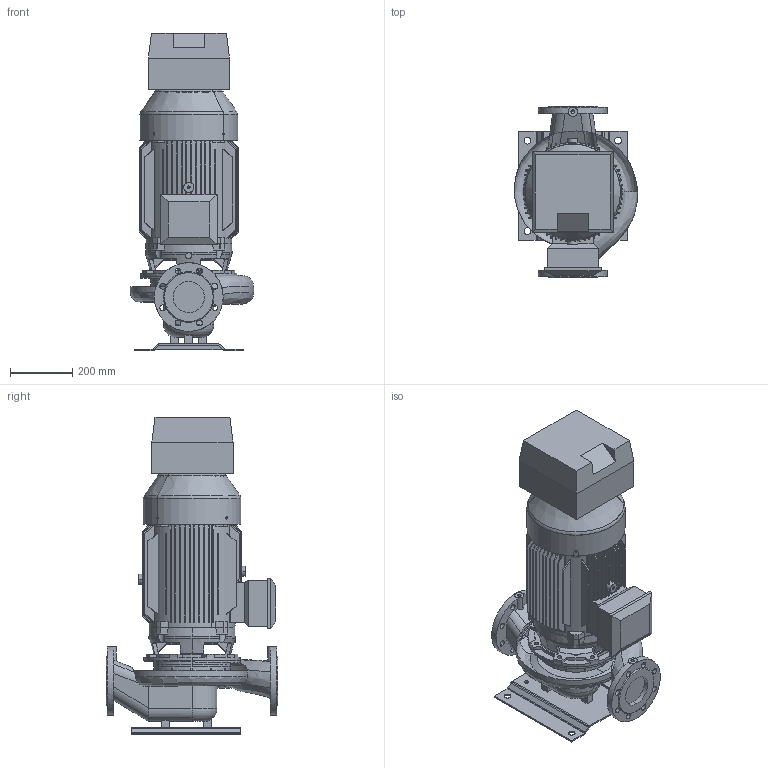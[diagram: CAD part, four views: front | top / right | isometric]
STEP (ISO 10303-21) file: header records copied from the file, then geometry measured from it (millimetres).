
FILE_DESCRIPTION(('STEP AP214'),'1');
FILE_NAME('export.stp','2018-08-08T11:33:52',(' '),(' '),'Spatial InterOp 3D',' ',' ');
FILE_SCHEMA(('AUTOMOTIVE_DESIGN { 1 0 10303 214 1 1 1 1 }'));
Length unit declared in the file: millimetre
Products named in the file (12): W_AKN1002NC150; V_TLAKN100127; V_PPAKN100; P100496; P100495; P100342; V_MKP-166-H1_N26; R200574; R200587; R201257; R200960; NC_Size2
Assembly tree (12 placements, depth 3):
  W_AKN1002NC150
    V_TLAKN100127
    V_PPAKN100
    P100496
      P100495  x2
      P100342
    V_MKP-166-H1_N26
      R200574
      R200587
      R201257
      R200960
    NC_Size2
Bounding box: 395.29 x 550 x 1018 mm (x, y, z)
Volume: 22878088.5 mm3; surface area: 3606811.6 mm2
Topology: 9 solids, 10 shells, 1793 faces, 5209 edges, 3446 vertices
Faces by surface type: plane 1209, cylinder 316, cone 158, torus 71, bspline 39
Entity records: 92720 total; most frequent: CARTESIAN_POINT 16931, ORIENTED_EDGE 10360, DIRECTION 8973, EDGE_CURVE 5187, STYLED_ITEM 4571, PRESENTATION_STYLE_ASSIGNMENT 4571, COLOUR_RGB 4571, LINE 3455
